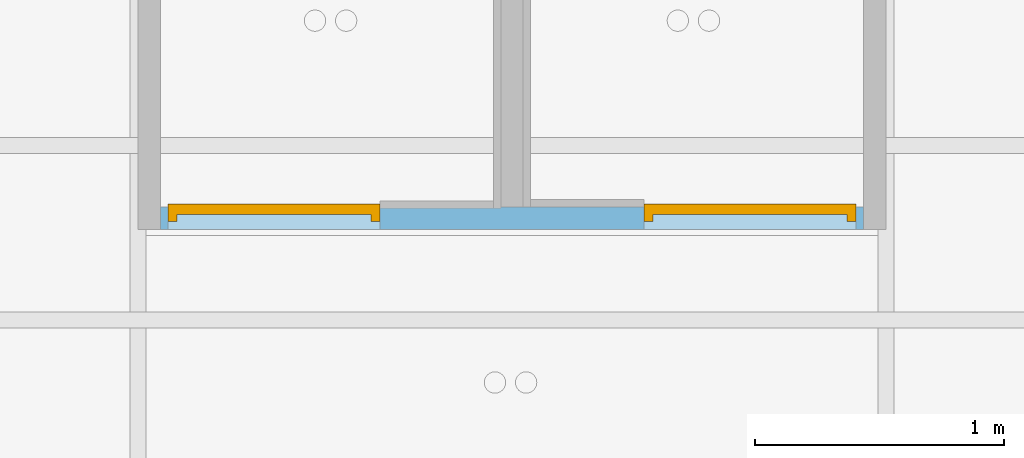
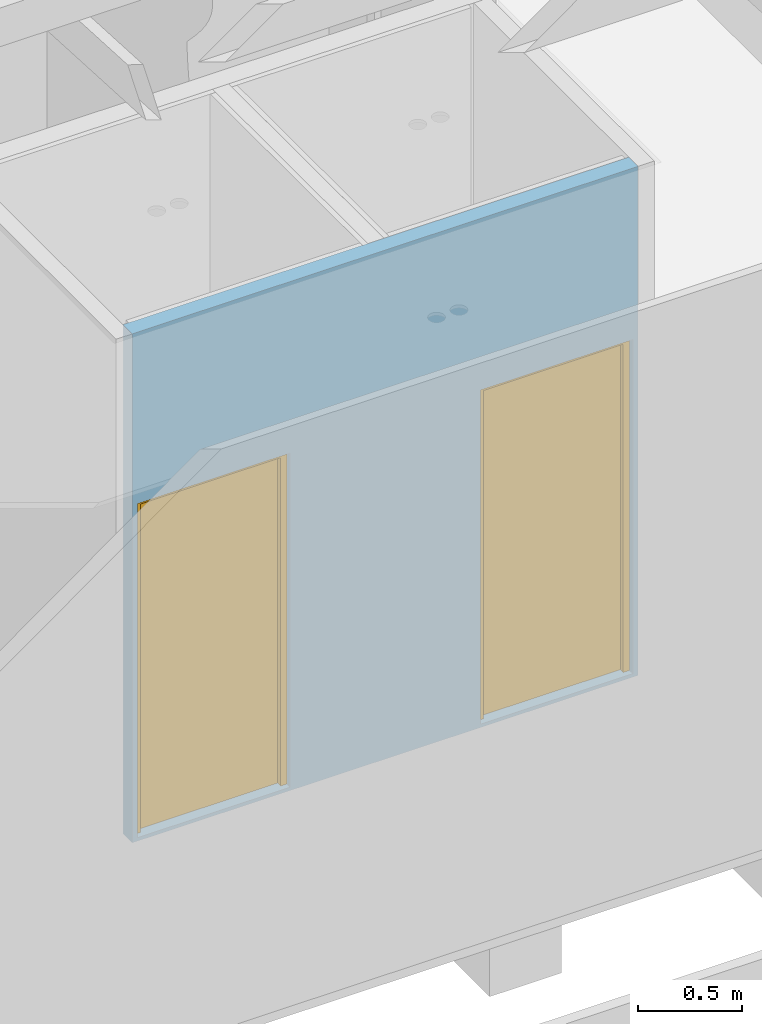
"""IFC2X3 building model written with IfcOpenShell, lengths in centimetres."""

from ifc_helpers import new_model, entity, si_unit, converted_unit, derived_unit, direction, frame, frame_2d, origin, place, context, subcontext, project, spatial, rectangle, extrude, faceted_brep, source, transform, mapped, material, layer, layer_set, layer_usage, type_object, type_shapes, element, fill, save


model = new_model("IFC2X3")

# Units and contexts
model_context = context("Model", 3, precision=0.001, world=origin(), true_north=direction((6.123233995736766e-17, 1.0)))
body_context = subcontext(model_context, "Body", "Model", "MODEL_VIEW")
ifc_project = project(units=[si_unit("LENGTHUNIT", "METRE", prefix="CENTI"), si_unit("AREAUNIT", "SQUARE_METRE"), si_unit("VOLUMEUNIT", "CUBIC_METRE"), converted_unit("PLANEANGLEUNIT", "DEGREE", entity("IfcPlaneAngleMeasure", 0.017453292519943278), si_unit("PLANEANGLEUNIT", "RADIAN"), dimensions=[0, 0, 0, 0, 0, 0, 0]), si_unit("POWERUNIT", "WATT"), derived_unit("USERDEFINED", [(si_unit("MASSUNIT", "GRAM", prefix="KILO"), 1), (si_unit("TIMEUNIT", "SECOND"), -3)]), si_unit("FORCEUNIT", "NEWTON", prefix="KILO"), derived_unit("THERMALTRANSMITTANCEUNIT", [(si_unit("MASSUNIT", "GRAM", prefix="KILO"), 1), (si_unit("TIMEUNIT", "SECOND"), -3), (si_unit("THERMODYNAMICTEMPERATUREUNIT", "KELVIN"), -1)]), derived_unit("USERDEFINED", [(si_unit("MASSUNIT", "GRAM", prefix="KILO"), 1), (si_unit("THERMODYNAMICTEMPERATUREUNIT", "KELVIN"), -1), (si_unit("TIMEUNIT", "SECOND"), -2)]), derived_unit("THERMALRESISTANCEUNIT", [(si_unit("MASSUNIT", "GRAM", prefix="KILO"), -1), (si_unit("TIMEUNIT", "SECOND"), 3), (si_unit("THERMODYNAMICTEMPERATUREUNIT", "KELVIN"), 1)]), derived_unit("USERDEFINED", [(si_unit("MASSUNIT", "GRAM", prefix="KILO"), -1), (si_unit("TIMEUNIT", "SECOND"), 3), (si_unit("LENGTHUNIT", "METRE"), -2), (si_unit("LUMINOUSFLUXUNIT", "LUMEN"), 1)]), si_unit("LUMINOUSFLUXUNIT", "LUMEN")], contexts=[model_context])

# Site, building, storey
site_placement = place(None, origin())
site = spatial("IfcSite", under=ifc_project, at=site_placement, Name="Default", CompositionType="ELEMENT")
building_placement = place(site_placement, origin())
building = spatial("IfcBuilding", under=site, at=building_placement, Name="Workshop Hbaitáculo - Refugio Tierra del Fuego", CompositionType="ELEMENT")
storey_1_placement = place(building_placement, frame((0.0, 0.0, 100.0)))
storey_1 = spatial("IfcBuildingStorey", under=building, at=storey_1_placement, Name="NOG_PISO 1", CompositionType="ELEMENT", Elevation=100.0)

# Wall, openings
ifc_material_1 = material(Name="SIP OSB")
ifc_layer_1 = layer(ifc_material_1, 1.1)
ifc_material_2 = material(Name="SIP Aislamiento - Poliestireno expandido")
ifc_layer_2 = layer(ifc_material_2, 6.8)
ifc_layer_3 = layer(ifc_material_1, 1.1)
ifc_layer_set = layer_set([ifc_layer_1, ifc_layer_2, ifc_layer_3], Name="Muro básico:Panel SiP Interior 90mm")
ifc_layer_usage = layer_usage(ifc_layer_set, "AXIS2", "NEGATIVE", 4.4999999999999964)
wall_type = type_object("IfcWallType", Name="Muro básico:Panel SiP Interior 90mm", PredefinedType="STANDARD", material=ifc_layer_set)
wall_placement = place(storey_1_placement, frame((309.0, -460.1500000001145, 21.0)))
wall = element("IfcWallStandardCase", 1, at=wall_placement, inside=storey_1, type_object=wall_type, material=ifc_layer_usage, Name="Muro básico:Panel SiP Interior 90mm", ObjectType="Muro básico:Panel SiP Interior 90mm", context=body_context, shape_type="SweptSolid", body=[
    extrude(rectangle(XDim=282.00000000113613, YDim=9.00000000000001, at=frame_2d((141.00000000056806, 3.8191672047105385e-14), x_axis=(-1.0, 0.0))), origin(), (0.0, 0.0, 1.0), 300.00000000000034),
])
opening_1_placement = place(wall_placement, frame((3.0, -4.500000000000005, 2.0)))
opening_1 = element("IfcOpeningElement", 2, at=opening_1_placement, cuts=wall, Name="TBC-P-PuertaSimpleMadera:TBC-ARQ-Puerta Simple Madera-P1-0.75x2.10:1", ObjectType="Opening", context=body_context, shape_type="SweptSolid", body=[
    extrude(rectangle(XDim=196.9999999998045, YDim=84.99999999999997, at=frame_2d((98.49999999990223, 42.499999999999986), x_axis=(1.0, 0.0))), frame((0.0, 0.0, 0.0), z_axis=(0.0, 1.0, 0.0), x_axis=(0.0, 0.0, 1.0)), (0.0, 0.0, 1.0), 8.999999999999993),
])
opening_2_placement = place(wall_placement, frame((194.00000000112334, -4.500000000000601, 2.0)))
opening_2 = element("IfcOpeningElement", 3, at=opening_2_placement, cuts=wall, Name="TBC-P-PuertaSimpleMadera:TBC-ARQ-Puerta Simple Madera-P1-0.75x2.10:1", ObjectType="Opening", context=body_context, shape_type="SweptSolid", body=[
    extrude(rectangle(XDim=196.9999999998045, YDim=84.99999999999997, at=frame_2d((98.49999999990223, 42.50000000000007), x_axis=(1.0, 0.0))), frame((0.0, 0.0, 0.0), z_axis=(0.0, 1.0, 0.0), x_axis=(0.0, 0.0, 1.0)), (0.0, 0.0, 1.0), 8.999999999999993),
])

# Storey
storey_2_placement = place(building_placement, frame((0.0, 0.0, 123.0)))
storey_2 = spatial("IfcBuildingStorey", under=building, at=storey_2_placement, Name="NPT", CompositionType="ELEMENT", Elevation=123.0)

# Door
ifc_material_3 = material(Name="TBC_PuertaMaderaMaciza")
door_style_1 = type_object("IfcDoorStyle", Name="TBC-P-PuertaSimpleMadera:TBC-ARQ-Puerta Simple Madera-P1-0.75x2.10", ConstructionType="NOTDEFINED", OperationType="NOTDEFINED", ParameterTakesPrecedence=False, Sizeable=False, material=ifc_material_3)
shared_shape_1 = source(origin(), body_context, "Body", "Brep", [
    faceted_brep([(82.5, 6.0, 194.50000000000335), (2.5000000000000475, 6.0, 194.50000000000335), (2.500000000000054, 6.0, 0.0), (82.5, 6.0, 0.0), (82.5, 10.199999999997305, 194.5000000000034), (82.5, 10.199999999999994, 0.0), (2.500000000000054, 10.199999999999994, 0.0), (2.5000000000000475, 10.199999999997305, 194.5000000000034)], [[[0, 1, 2, 3]], [[4, 5, 6, 7]], [[1, 0, 4, 7]], [[2, 1, 7, 6]], [[3, 2, 6, 5]], [[0, 3, 5, 4]]]),
    faceted_brep([(0.0, 10.200000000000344, 0.0), (2.5000000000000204, 10.200000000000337, 0.0), (2.5000000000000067, 6.0, 0.0), (3.5000000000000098, 6.0, 0.0), (3.5000000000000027, 3.200000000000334, 0.0), (0.0, 3.2000000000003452, 0.0), (0.0, 10.200000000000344, 197.0), (85.0, 10.200000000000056, 197.0), (85.0, 10.200000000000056, 0.0), (82.49999999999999, 10.20000000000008, 0.0), (82.5, 10.20000000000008, 194.4999999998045), (2.5000000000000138, 10.200000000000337, 194.49999999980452), (2.5, 6.0, 194.49999999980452), (82.49999999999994, 6.0, 194.49999999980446), (82.49999999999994, 6.0, 0.0), (81.49999999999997, 6.0, 0.0), (81.49999999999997, 6.0, 193.49999999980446), (3.500000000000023, 6.0, 193.49999999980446), (3.5000000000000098, 3.2000000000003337, 193.49999999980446), (81.49999999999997, 3.2000000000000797, 193.49999999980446), (81.49999999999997, 3.2000000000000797, 0.0), (85.0, 3.2000000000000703, 0.0), (85.0, 3.200000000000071, 197.0), (0.0, 3.2000000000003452, 197.0)], [[[0, 1, 2, 3, 4, 5]], [[1, 0, 6, 7, 8, 9, 10, 11]], [[2, 1, 11, 12]], [[3, 2, 12, 13, 14, 15, 16, 17]], [[4, 3, 17, 18]], [[5, 4, 18, 19, 20, 21, 22, 23]], [[0, 5, 23, 6]], [[7, 22, 21, 8]], [[8, 21, 20, 15, 14, 9]], [[13, 10, 9, 14]], [[19, 16, 15, 20]], [[12, 11, 10, 13]], [[18, 17, 16, 19]], [[6, 23, 22, 7]]]),
])
type_shapes(door_style_1, [shared_shape_1])
door_1_placement = place(opening_1_placement, origin())
door_1 = element("IfcDoor", 4, at=door_1_placement, inside=storey_2, type_object=door_style_1, material=ifc_material_3, Name="TBC-P-PuertaSimpleMadera:TBC-ARQ-Puerta Simple Madera-P1-0.75x2.10", ObjectType="TBC-P-PuertaSimpleMadera:TBC-ARQ-Puerta Simple Madera-P1-0.75x2.10", OverallHeight=196.99999999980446, OverallWidth=85.0, context=body_context, shape_type="MappedRepresentation", body=[
    mapped(shared_shape_1, transform((0.0, 0.0, 0.0), scale=1.0)),
])

fill(opening_1, door_1)

door_style_2 = type_object("IfcDoorStyle", Name="TBC-P-PuertaSimpleMadera:TBC-ARQ-Puerta Simple Madera-P1-0.75x2.10", ConstructionType="NOTDEFINED", OperationType="NOTDEFINED", ParameterTakesPrecedence=False, Sizeable=False, material=ifc_material_3)
shared_shape_2 = source(origin(), body_context, "Body", "Brep", [
    faceted_brep([(2.500000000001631, 6.0, 194.50000000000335), (2.500000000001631, 6.0, 0.0), (82.50000000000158, 6.0, 0.0), (82.50000000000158, 6.0, 194.50000000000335), (2.500000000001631, 10.199999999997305, 194.5000000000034), (82.50000000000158, 10.199999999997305, 194.5000000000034), (82.50000000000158, 10.199999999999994, 0.0), (2.500000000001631, 10.199999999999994, 0.0)], [[[0, 1, 2, 3]], [[4, 5, 6, 7]], [[3, 5, 4, 0]], [[2, 6, 5, 3]], [[1, 7, 6, 2]], [[0, 4, 7, 1]]]),
    faceted_brep([(85.0, 10.200000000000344, 0.0), (85.0, 3.2000000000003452, 0.0), (81.50000000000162, 3.200000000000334, 0.0), (81.5000000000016, 6.0, 0.0), (82.50000000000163, 6.0, 0.0), (82.5000000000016, 10.200000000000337, 0.0), (82.5000000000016, 10.200000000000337, 194.4999999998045), (2.500000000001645, 10.20000000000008, 194.49999999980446), (2.500000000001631, 10.200000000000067, 0.0), (0.0, 10.200000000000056, 0.0), (0.0, 10.200000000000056, 197.0), (85.0, 10.200000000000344, 197.0), (82.50000000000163, 6.0, 194.4999999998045), (81.50000000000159, 6.0, 193.49999999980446), (3.5000000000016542, 6.0, 193.49999999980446), (3.500000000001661, 6.0, 0.0), (2.500000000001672, 6.0, 0.0), (2.500000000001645, 6.0, 194.49999999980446), (81.5000000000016, 3.2000000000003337, 193.49999999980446), (85.0, 3.2000000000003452, 197.0), (0.0, 3.2000000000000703, 197.0), (0.0, 3.2000000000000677, 0.0), (3.5000000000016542, 3.2000000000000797, 0.0), (3.5000000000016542, 3.2000000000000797, 193.49999999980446)], [[[0, 1, 2, 3, 4, 5]], [[5, 6, 7, 8, 9, 10, 11, 0]], [[4, 12, 6, 5]], [[3, 13, 14, 15, 16, 17, 12, 4]], [[2, 18, 13, 3]], [[1, 19, 20, 21, 22, 23, 18, 2]], [[0, 11, 19, 1]], [[10, 9, 21, 20]], [[9, 8, 16, 15, 22, 21]], [[17, 16, 8, 7]], [[23, 22, 15, 14]], [[12, 17, 7, 6]], [[18, 23, 14, 13]], [[11, 10, 20, 19]]]),
])
type_shapes(door_style_2, [shared_shape_2])
door_2_placement = place(opening_2_placement, origin())
door_2 = element("IfcDoor", 5, at=door_2_placement, inside=storey_1, type_object=door_style_2, material=ifc_material_3, Name="TBC-P-PuertaSimpleMadera:TBC-ARQ-Puerta Simple Madera-P1-0.75x2.10", ObjectType="TBC-P-PuertaSimpleMadera:TBC-ARQ-Puerta Simple Madera-P1-0.75x2.10", OverallHeight=196.99999999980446, OverallWidth=85.00000000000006, context=body_context, shape_type="MappedRepresentation", body=[
    mapped(shared_shape_2, transform((0.0, 0.0, 0.0), scale=1.0)),
])

fill(opening_2, door_2)

save(model, "model.ifc")
